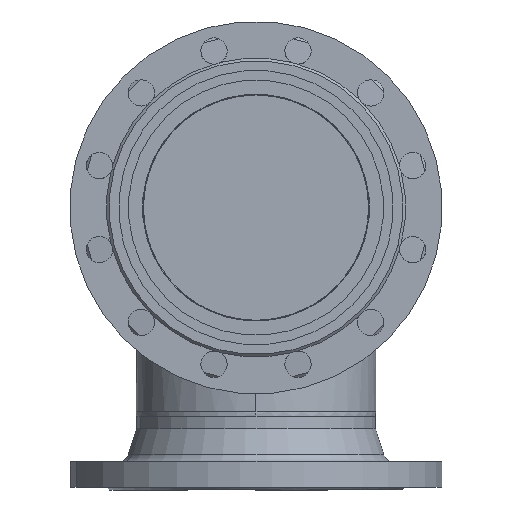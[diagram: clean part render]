
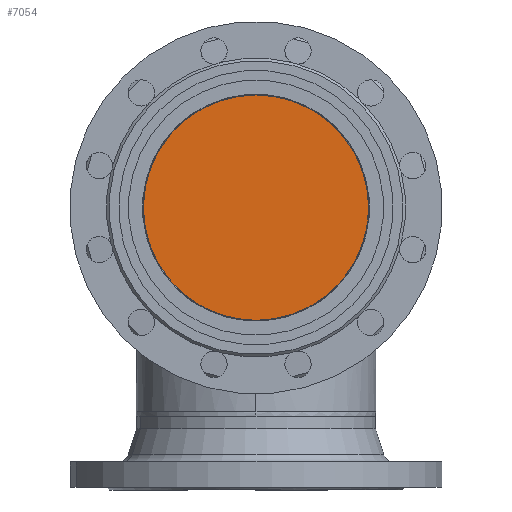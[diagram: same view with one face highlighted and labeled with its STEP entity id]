
A CAD part, front view. The second image highlights one B-rep face of the part: STEP entity #7054.
In plain terms, the highlighted planar face has unit normal (0, -1, 0).
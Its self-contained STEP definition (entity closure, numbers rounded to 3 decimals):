
#367 = CIRCLE ( 'NONE', #368, 148. ) ;
#368 = AXIS2_PLACEMENT_3D ( 'NONE', #369, #370, #373 ) ;
#369 = CARTESIAN_POINT ( 'NONE',  ( 0., -54., 0. ) ) ;
#370 = DIRECTION ( 'NONE',  ( 0., -1., 0. ) ) ;
#373 = DIRECTION ( 'NONE',  ( 0., 0., -1. ) ) ;
#1377 = CIRCLE ( 'NONE', #1378, 148. ) ;
#1378 = AXIS2_PLACEMENT_3D ( 'NONE', #1379, #1381, #1382 ) ;
#1379 = CARTESIAN_POINT ( 'NONE',  ( 0., -54., 0. ) ) ;
#1381 = DIRECTION ( 'NONE',  ( 0., -1., 0. ) ) ;
#1382 = DIRECTION ( 'NONE',  ( 0., 0., -1. ) ) ;
#1875 = ORIENTED_EDGE ( 'NONE', *, *, #6589, .T. ) ;
#5437 = CARTESIAN_POINT ( 'NONE',  ( 0., -54., 148. ) ) ;
#5537 = CARTESIAN_POINT ( 'NONE',  ( 0., -54., -148. ) ) ;
#6536 = VERTEX_POINT ( 'NONE', #5437 ) ;
#6559 = VERTEX_POINT ( 'NONE', #5537 ) ;
#6589 = EDGE_CURVE ( 'NONE', #6559, #6536, #367, .T. ) ;
#6968 = ORIENTED_EDGE ( 'NONE', *, *, #7233, .T. ) ;
#7024 = EDGE_LOOP ( 'NONE', ( #6968, #1875 ) ) ;
#7054 = ADVANCED_FACE ( 'NONE', ( #10437 ), #10438, .T. ) ;
#7233 = EDGE_CURVE ( 'NONE', #6536, #6559, #1377, .T. ) ;
#10437 = FACE_OUTER_BOUND ( 'NONE', #7024, .T. ) ;
#10438 = PLANE ( 'NONE',  #10439 ) ;
#10439 = AXIS2_PLACEMENT_3D ( 'NONE', #10441, #10442, #10443 ) ;
#10441 = CARTESIAN_POINT ( 'NONE',  ( 0., -54., 0. ) ) ;
#10442 = DIRECTION ( 'NONE',  ( 0., -1., 0. ) ) ;
#10443 = DIRECTION ( 'NONE',  ( 0., 0., -1. ) ) ;
